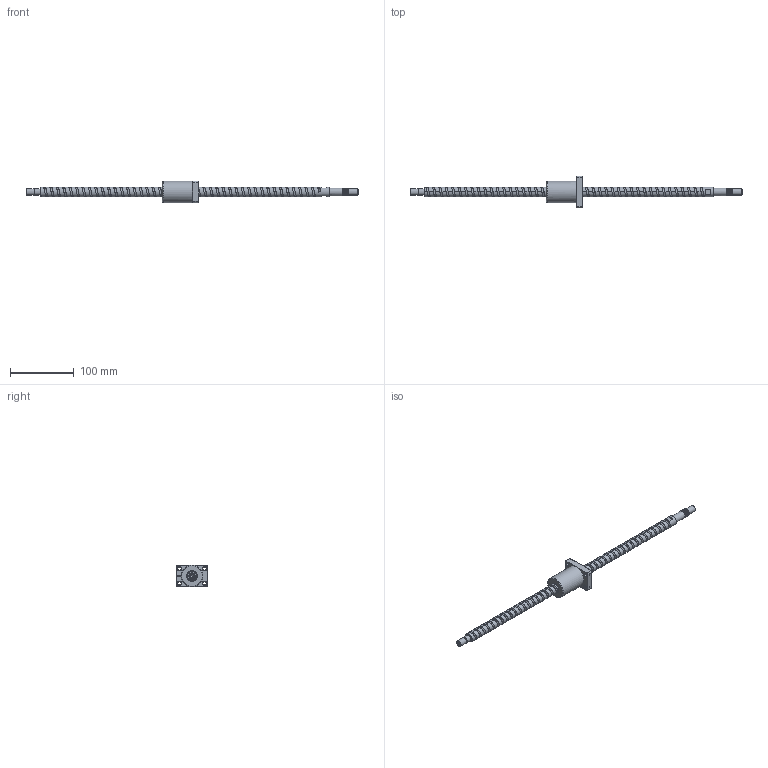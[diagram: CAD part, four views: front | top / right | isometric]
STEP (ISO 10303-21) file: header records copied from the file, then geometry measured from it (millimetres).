
FILE_DESCRIPTION (( 'STEP AP203' ), '1' );
FILE_NAME ('XSVR01510B1DGC5-521-P1.step', '2024-06-03T05:10:30', ( '' ), ( '' ), 'SwSTEP 2.0', 'SolidWorks 2022', '' );
FILE_SCHEMA (( 'CONFIG_CONTROL_DESIGN' ));
Length unit declared in the file: millimetre
Products named in the file (1): XSVR01510B1DGC5-521-P1
Bounding box: 521 x 50 x 34 mm (x, y, z)
Volume: 124601.7 mm3; surface area: 39742 mm2
Topology: 2 solids, 2 shells, 174 faces, 470 edges, 306 vertices
Faces by surface type: cylinder 97, plane 43, cone 15, bspline 10, torus 9
Full cylindrical faces by diameter (mm): 4 x1, 4.2 x15, 5 x6, 5.5 x4, 9.5 x4, 9.6 x1, 10 x3, 12 x9, 15 x44, 16.7 x1, 34 x1
Entity records: 21148 total; most frequent: CARTESIAN_POINT 19024, ORIENTED_EDGE 402, DIRECTION 391, EDGE_CURVE 201, AXIS2_PLACEMENT_3D 168, EDGE_LOOP 153, VERTEX_POINT 146, FACE_OUTER_BOUND 120
